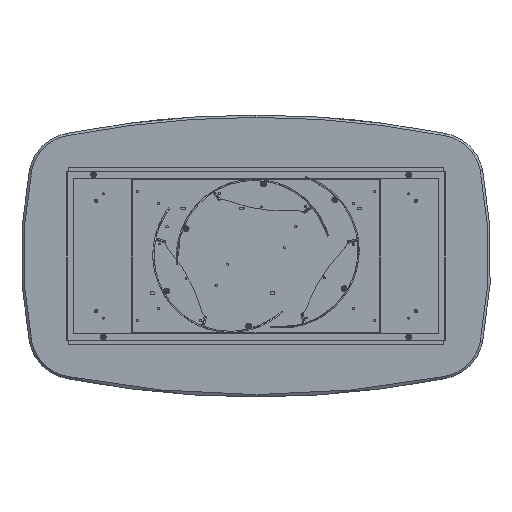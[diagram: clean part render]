
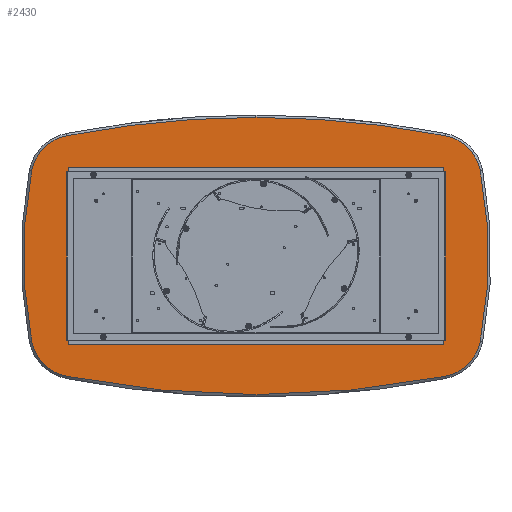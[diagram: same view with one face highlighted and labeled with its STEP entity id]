
A CAD part, front view. The second image highlights one B-rep face of the part: STEP entity #2430.
In plain terms, the highlighted planar face has unit normal (0, -1, 0).
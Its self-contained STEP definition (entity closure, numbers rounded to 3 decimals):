
#40 = CARTESIAN_POINT ( 'NONE',  ( -954.894, 0., 362.002 ) ) ;
#212 = AXIS2_PLACEMENT_3D ( 'NONE', #18157, #6370, #21690 ) ;
#595 = VERTEX_POINT ( 'NONE', #17610 ) ;
#1144 = CARTESIAN_POINT ( 'NONE',  ( 0., 0., 590. ) ) ;
#1243 = DIRECTION ( 'NONE',  ( 0., -1., 0. ) ) ;
#1410 = CARTESIAN_POINT ( 'NONE',  ( 804.935, 0., 511.956 ) ) ;
#1731 = EDGE_CURVE ( 'NONE', #595, #2256, #3764, .T. ) ;
#1765 = AXIS2_PLACEMENT_3D ( 'NONE', #24347, #5261, #4901 ) ;
#1887 = PLANE ( 'NONE',  #18079 ) ;
#1962 = ORIENTED_EDGE ( 'NONE', *, *, #21735, .T. ) ;
#2256 = VERTEX_POINT ( 'NONE', #14554 ) ;
#2430 = ADVANCED_FACE ( 'NONE', ( #13537 ), #1887, .F. ) ;
#2884 = EDGE_CURVE ( 'NONE', #2256, #18368, #10870, .T. ) ;
#3004 = CIRCLE ( 'NONE', #212, 190. ) ;
#3367 = AXIS2_PLACEMENT_3D ( 'NONE', #15848, #23767, #15729 ) ;
#3633 = CARTESIAN_POINT ( 'NONE',  ( -447., 0., 1800. ) ) ;
#3696 = CARTESIAN_POINT ( 'NONE',  ( -768.435, 0., 325.495 ) ) ;
#3764 = CIRCLE ( 'NONE', #3367, 190. ) ;
#3790 = ORIENTED_EDGE ( 'NONE', *, *, #6821, .T. ) ;
#4571 = CIRCLE ( 'NONE', #1765, 4190. ) ;
#4901 = DIRECTION ( 'NONE',  ( 0., 0., 1. ) ) ;
#5252 = CARTESIAN_POINT ( 'NONE',  ( 954.894, 0., 362.002 ) ) ;
#5261 = DIRECTION ( 'NONE',  ( 0., -1., 0. ) ) ;
#5469 = ORIENTED_EDGE ( 'NONE', *, *, #2884, .T. ) ;
#5543 = EDGE_LOOP ( 'NONE', ( #22630, #3790, #20844, #5469, #1962, #14315, #18609, #9902, #19803 ) ) ;
#6360 = VERTEX_POINT ( 'NONE', #1410 ) ;
#6370 = DIRECTION ( 'NONE',  ( 0., -1., 0. ) ) ;
#6821 = EDGE_CURVE ( 'NONE', #22523, #595, #4571, .T. ) ;
#6985 = VERTEX_POINT ( 'NONE', #23950 ) ;
#7190 = EDGE_CURVE ( 'NONE', #12870, #6985, #16203, .T. ) ;
#7486 = CARTESIAN_POINT ( 'NONE',  ( 0., 0., -3600. ) ) ;
#7588 = EDGE_CURVE ( 'NONE', #6985, #17362, #13821, .T. ) ;
#7637 = DIRECTION ( 'NONE',  ( 0., 1., 0. ) ) ;
#7705 = DIRECTION ( 'NONE',  ( 0., 0., 1. ) ) ;
#9122 = DIRECTION ( 'NONE',  ( 0., -1., 0. ) ) ;
#9633 = AXIS2_PLACEMENT_3D ( 'NONE', #16553, #1243, #14538 ) ;
#9706 = EDGE_CURVE ( 'NONE', #22440, #22523, #3004, .T. ) ;
#9736 = DIRECTION ( 'NONE',  ( 0., 0., 1. ) ) ;
#9902 = ORIENTED_EDGE ( 'NONE', *, *, #7588, .T. ) ;
#10046 = DIRECTION ( 'NONE',  ( 0., -1., 0. ) ) ;
#10493 = AXIS2_PLACEMENT_3D ( 'NONE', #22552, #9122, #24683 ) ;
#10870 = CIRCLE ( 'NONE', #10493, 1884. ) ;
#12108 = CIRCLE ( 'NONE', #9633, 190. ) ;
#12274 = CIRCLE ( 'NONE', #20681, 1884. ) ;
#12870 = VERTEX_POINT ( 'NONE', #1144 ) ;
#13537 = FACE_OUTER_BOUND ( 'NONE', #5543, .T. ) ;
#13821 = CIRCLE ( 'NONE', #24648, 190. ) ;
#14015 = EDGE_CURVE ( 'NONE', #17362, #22440, #12274, .T. ) ;
#14189 = DIRECTION ( 'NONE',  ( 0., -1., 0. ) ) ;
#14315 = ORIENTED_EDGE ( 'NONE', *, *, #19365, .T. ) ;
#14415 = AXIS2_PLACEMENT_3D ( 'NONE', #21732, #10046, #15945 ) ;
#14538 = DIRECTION ( 'NONE',  ( 0., 0., 1. ) ) ;
#14554 = CARTESIAN_POINT ( 'NONE',  ( 954.894, 0., -362.002 ) ) ;
#15012 = DIRECTION ( 'NONE',  ( 0., -1., 0. ) ) ;
#15729 = DIRECTION ( 'NONE',  ( 0., 0., 1. ) ) ;
#15848 = CARTESIAN_POINT ( 'NONE',  ( 768.435, 0., -325.495 ) ) ;
#15945 = DIRECTION ( 'NONE',  ( 0., 0., 1. ) ) ;
#16203 = CIRCLE ( 'NONE', #17408, 4190. ) ;
#16329 = CARTESIAN_POINT ( 'NONE',  ( 894., 0., 0. ) ) ;
#16553 = CARTESIAN_POINT ( 'NONE',  ( 768.435, 0., 325.495 ) ) ;
#16816 = DIRECTION ( 'NONE',  ( 0., 0., 1. ) ) ;
#17356 = CARTESIAN_POINT ( 'NONE',  ( -954.894, 0., -362.002 ) ) ;
#17362 = VERTEX_POINT ( 'NONE', #40 ) ;
#17408 = AXIS2_PLACEMENT_3D ( 'NONE', #7486, #15012, #9736 ) ;
#17610 = CARTESIAN_POINT ( 'NONE',  ( 804.935, 0., -511.956 ) ) ;
#18079 = AXIS2_PLACEMENT_3D ( 'NONE', #3633, #7637, #16816 ) ;
#18157 = CARTESIAN_POINT ( 'NONE',  ( -768.435, 0., -325.495 ) ) ;
#18368 = VERTEX_POINT ( 'NONE', #5252 ) ;
#18609 = ORIENTED_EDGE ( 'NONE', *, *, #7190, .T. ) ;
#19005 = DIRECTION ( 'NONE',  ( 0., -1., 0. ) ) ;
#19365 = EDGE_CURVE ( 'NONE', #6360, #12870, #24450, .T. ) ;
#19803 = ORIENTED_EDGE ( 'NONE', *, *, #14015, .T. ) ;
#20681 = AXIS2_PLACEMENT_3D ( 'NONE', #16329, #14189, #24105 ) ;
#20844 = ORIENTED_EDGE ( 'NONE', *, *, #1731, .T. ) ;
#21102 = CARTESIAN_POINT ( 'NONE',  ( -804.935, 0., -511.956 ) ) ;
#21690 = DIRECTION ( 'NONE',  ( 0., 0., 1. ) ) ;
#21732 = CARTESIAN_POINT ( 'NONE',  ( 0., 0., -3600. ) ) ;
#21735 = EDGE_CURVE ( 'NONE', #18368, #6360, #12108, .T. ) ;
#22440 = VERTEX_POINT ( 'NONE', #17356 ) ;
#22523 = VERTEX_POINT ( 'NONE', #21102 ) ;
#22552 = CARTESIAN_POINT ( 'NONE',  ( -894., 0., 0. ) ) ;
#22630 = ORIENTED_EDGE ( 'NONE', *, *, #9706, .T. ) ;
#23767 = DIRECTION ( 'NONE',  ( 0., -1., 0. ) ) ;
#23950 = CARTESIAN_POINT ( 'NONE',  ( -804.935, 0., 511.956 ) ) ;
#24105 = DIRECTION ( 'NONE',  ( 0., 0., 1. ) ) ;
#24347 = CARTESIAN_POINT ( 'NONE',  ( 0., 0., 3600. ) ) ;
#24450 = CIRCLE ( 'NONE', #14415, 4190. ) ;
#24648 = AXIS2_PLACEMENT_3D ( 'NONE', #3696, #19005, #7705 ) ;
#24683 = DIRECTION ( 'NONE',  ( 0., 0., 1. ) ) ;
